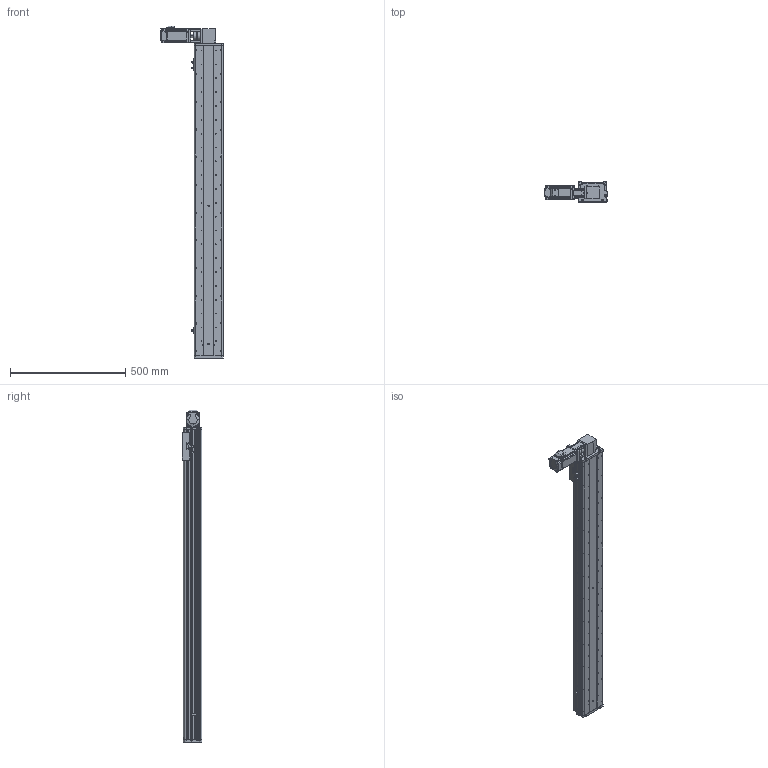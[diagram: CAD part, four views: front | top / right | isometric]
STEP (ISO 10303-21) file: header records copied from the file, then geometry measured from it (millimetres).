
FILE_DESCRIPTION (( 'STEP AP214' ), '1' );
FILE_NAME ('KSD125B-S1150-MRT-CM.STEP', '2017-08-07T07:39:05', ( '微软用户' ), ( '微软中国' ), 'SwSTEP 2.0', 'SolidWorks 2014', '' );
FILE_SCHEMA (( 'AUTOMOTIVE_DESIGN' ));
Length unit declared in the file: millimetre
Products named in the file (16): KSD125模组同步带-防撞垫1; 100宽安装板同步带带电机座400W,86; 100宽马达安装板同步带右; 前端板-125宽模组同步带; 125模组同步带-尾端板1; KSD125模组同步带-滑动座1; KSD125B-S1150-MRT-CM; KSD125模组1150行程同步带-防尘盖; 125模组1150行程同步带-底板; MHMD042G1CA_2_03; KSD125模组同步带-防撞垫2; CS-34X32-10X14; 100遵鎮湛假蚾啣1 ; 覜茼え68遵圉猾敕; U倰嫖萇假蚾璃; U倰嫖萇EEㄜSX672
Assembly tree (19 placements, depth 2):
  KSD125B-S1150-MRT-CM
    KSD125模组同步带-滑动座1
    125模组同步带-尾端板1
    前端板-125宽模组同步带
    100宽马达安装板同步带右
    100宽安装板同步带带电机座400W,86
    KSD125模组同步带-防撞垫1
    U倰嫖萇EEㄜSX672  x3
    U倰嫖萇假蚾璃  x3
    覜茼え68遵圉猾敕
    100遵鎮湛假蚾啣1 
    CS-34X32-10X14
    KSD125模组同步带-防撞垫2
    MHMD042G1CA_2_03
    125模组1150行程同步带-底板
    KSD125模组1150行程同步带-防尘盖
Bounding box: 269 x 86 x 1439 mm (x, y, z)
Volume: 4308261.7 mm3; surface area: 1415056.5 mm2
Topology: 18 solids, 21 shells, 1746 faces, 5014 edges, 3308 vertices
Faces by surface type: cylinder 933, plane 710, cone 81, bspline 22
Entity records: 61734 total; most frequent: CARTESIAN_POINT 12452, DIRECTION 9049, ORIENTED_EDGE 8548, EDGE_CURVE 4352, AXIS2_PLACEMENT_3D 3381, VERTEX_POINT 2900, VECTOR 2287, LINE 2287
